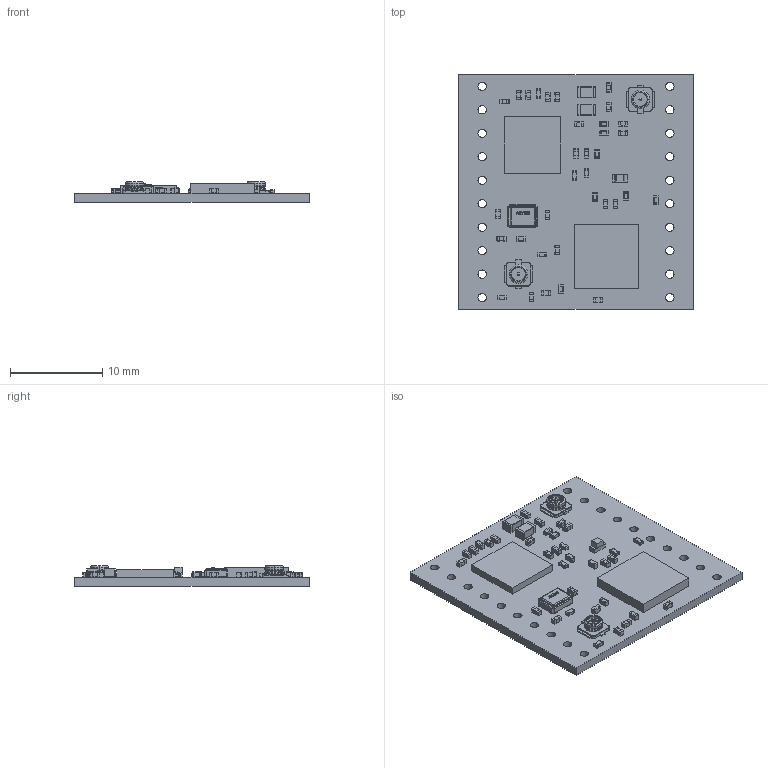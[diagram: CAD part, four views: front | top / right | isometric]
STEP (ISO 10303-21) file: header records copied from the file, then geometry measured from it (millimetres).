
FILE_DESCRIPTION(('Open CASCADE Model'),'2;1');
FILE_NAME('Open CASCADE Shape Model','2021-03-01T14:46:20',('Author'),( 'Open CASCADE'),'Open CASCADE STEP processor 6.8','Open CASCADE 6.8' ,'Unknown');
FILE_SCHEMA(('AUTOMOTIVE_DESIGN { 1 0 10303 214 1 1 1 1 }'));
Length unit declared in the file: millimetre
Products named in the file (55): PCB; Board; Y1; User_Library-ABM8G; U2; 745873808; Extruded; ANT2; SW3dPS-U.FL-R-SMT-1; ANT1; U1; 766561600; R4; User_Library-Chip_Resistor2; R3; R2; R1; R6; R5; LED1; User_Library-led0603_GRE; L3; User_Library-Chip_Inductor_(3); L1; User_Library-Chip_Inductor_(1); L2; FB4; FB3; FB1; FB2; C22; cap_0402; C21; C20; C19; C18; C16; C15; C14; C13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
Assembly tree (87 placements, depth 4):
  PCB
    Board
    Y1
      User_Library-ABM8G
    U2
      745873808
        Extruded
    ANT2
      SW3dPS-U.FL-R-SMT-1
    ANT1
      SW3dPS-U.FL-R-SMT-1
    U1
      766561600
        Extruded
    R4
      User_Library-Chip_Resistor2
    R3
      User_Library-Chip_Resistor2
    R2
      User_Library-Chip_Resistor2
    R1
      User_Library-Chip_Resistor2
    R6
      User_Library-Chip_Resistor2
    R5
      User_Library-Chip_Resistor2
    LED1
      User_Library-led0603_GRE
    L3
      User_Library-Chip_Inductor_(3)
    L1
      User_Library-Chip_Inductor_(1)
    L2
      User_Library-Chip_Inductor_(3)
    FB4
      User_Library-Chip_Inductor_(1)
    FB3
      User_Library-Chip_Inductor_(1)
    FB1
      User_Library-Chip_Inductor_(1)
    FB2
      User_Library-Chip_Inductor_(1)
    C22
      cap_0402
    C21
      cap_0402
    C20
      cap_0402
    C19
      cap_0402
    C18
      cap_0402
    C16
      cap_0402
    C15
      cap_0402
    C14
      cap_0402
    C13
      cap_0402
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Bounding box: 25.4 x 25.4 x 2.23 mm (x, y, z)
Volume: 730.7 mm3; surface area: 1874.3 mm2
Topology: 61 solids, 61 shells, 1977 faces, 4487 edges, 2398 vertices
Faces by surface type: cylinder 812, plane 770, sphere 288, torus 60, bspline 43, revolution 4
Full cylindrical faces by diameter (mm): 0.9 x20
Entity records: 19518 total; most frequent: CARTESIAN_POINT 5010, DIRECTION 2404, ORIENTED_EDGE 2224, EDGE_CURVE 1112, AXIS2_PLACEMENT_3D 856, LINE 690, VECTOR 690, VERTEX_POINT 672
